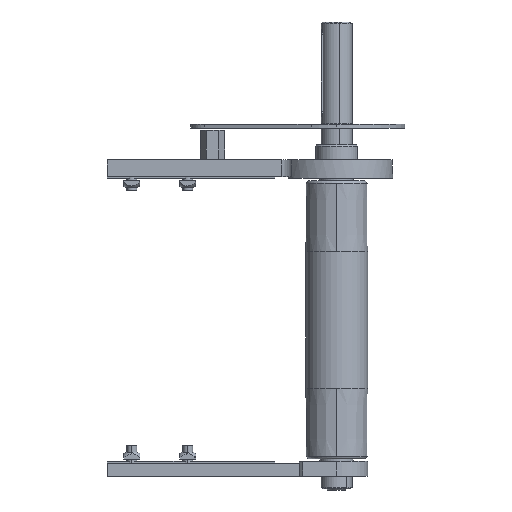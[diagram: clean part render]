
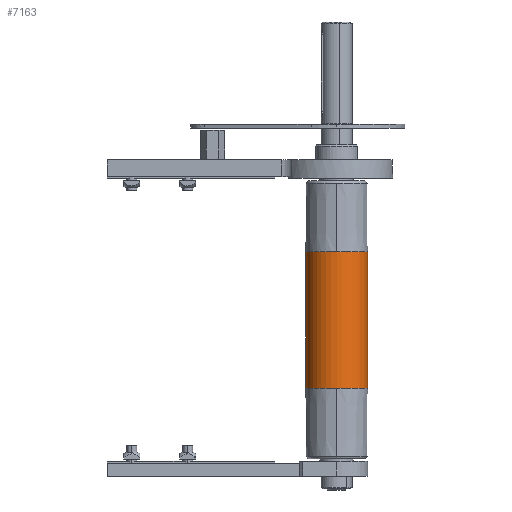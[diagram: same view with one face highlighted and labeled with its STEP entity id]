
A CAD part, front view. The second image highlights one B-rep face of the part: STEP entity #7163.
In plain terms, the highlighted cylindrical face has radius 25 mm (diameter 50 mm), a partial arc.
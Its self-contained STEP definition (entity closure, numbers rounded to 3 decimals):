
#2712 = CARTESIAN_POINT ( 'NONE',  ( -55., 25., 0. ) ) ;
#2952 = EDGE_LOOP ( 'NONE', ( #3448, #3449, #3450, #3451, #3452, #3453 ) ) ;
#3448 = ORIENTED_EDGE ( 'NONE', *, *, #15447, .T. ) ;
#3449 = ORIENTED_EDGE ( 'NONE', *, *, #15479, .T. ) ;
#3450 = ORIENTED_EDGE ( 'NONE', *, *, #15480, .T. ) ;
#3451 = ORIENTED_EDGE ( 'NONE', *, *, #15481, .F. ) ;
#3452 = ORIENTED_EDGE ( 'NONE', *, *, #15453, .F. ) ;
#3453 = ORIENTED_EDGE ( 'NONE', *, *, #15482, .F. ) ;
#3510 = VERTEX_POINT ( 'NONE', #2712 ) ;
#4352 = AXIS2_PLACEMENT_3D ( 'NONE', #5296, #5294, #5292 ) ;
#4424 = AXIS2_PLACEMENT_3D ( 'NONE', #10412, #10413, #10414 ) ;
#4428 = AXIS2_PLACEMENT_3D ( 'NONE', #10429, #10430, #10431 ) ;
#4441 = AXIS2_PLACEMENT_3D ( 'NONE', #10495, #10496, #10497 ) ;
#4442 = AXIS2_PLACEMENT_3D ( 'NONE', #10498, #10499, #10500 ) ;
#5292 = DIRECTION ( 'NONE',  ( 0., 0., 1. ) ) ;
#5294 = DIRECTION ( 'NONE',  ( -1., 0., 0. ) ) ;
#5296 = CARTESIAN_POINT ( 'NONE',  ( 110., 0., 0. ) ) ;
#5842 = FACE_OUTER_BOUND ( 'NONE', #2952, .T. ) ;
#5850 = CYLINDRICAL_SURFACE ( 'NONE', #4352, 25. ) ;
#6039 = CIRCLE ( 'NONE', #4424, 25. ) ;
#6047 = CIRCLE ( 'NONE', #4428, 25. ) ;
#6084 = CIRCLE ( 'NONE', #4441, 25. ) ;
#6087 = LINE ( 'NONE', #10492, #6089 ) ;
#6088 = CIRCLE ( 'NONE', #4442, 25. ) ;
#6089 = VECTOR ( 'NONE', #10487, 1000. ) ;
#6090 = LINE ( 'NONE', #10493, #6092 ) ;
#6092 = VECTOR ( 'NONE', #10494, 1000. ) ;
#7163 = ADVANCED_FACE ( 'NONE', ( #5842 ), #5850, .T. ) ;
#7699 = VERTEX_POINT ( 'NONE', #9426 ) ;
#7710 = VERTEX_POINT ( 'NONE', #9437 ) ;
#7727 = VERTEX_POINT ( 'NONE', #9454 ) ;
#7790 = VERTEX_POINT ( 'NONE', #9517 ) ;
#7794 = VERTEX_POINT ( 'NONE', #9521 ) ;
#9426 = CARTESIAN_POINT ( 'NONE',  ( -55., 0., 25. ) ) ;
#9437 = CARTESIAN_POINT ( 'NONE',  ( 55., 0., 25. ) ) ;
#9454 = CARTESIAN_POINT ( 'NONE',  ( 55., 25., 0. ) ) ;
#9517 = CARTESIAN_POINT ( 'NONE',  ( -55., 0., -25. ) ) ;
#9521 = CARTESIAN_POINT ( 'NONE',  ( 55., 0., -25. ) ) ;
#10412 = CARTESIAN_POINT ( 'NONE',  ( 55., 0., 0. ) ) ;
#10413 = DIRECTION ( 'NONE',  ( -1., 0., 0. ) ) ;
#10414 = DIRECTION ( 'NONE',  ( 0., -1., 0. ) ) ;
#10429 = CARTESIAN_POINT ( 'NONE',  ( -55., 0., 0. ) ) ;
#10430 = DIRECTION ( 'NONE',  ( -1., 0., 0. ) ) ;
#10431 = DIRECTION ( 'NONE',  ( 0., -1., 0. ) ) ;
#10487 = DIRECTION ( 'NONE',  ( -1., 0., 0. ) ) ;
#10492 = CARTESIAN_POINT ( 'NONE',  ( 110., 0., -25. ) ) ;
#10493 = CARTESIAN_POINT ( 'NONE',  ( 110., 0., 25. ) ) ;
#10494 = DIRECTION ( 'NONE',  ( -1., 0., 0. ) ) ;
#10495 = CARTESIAN_POINT ( 'NONE',  ( 55., 0., 0. ) ) ;
#10496 = DIRECTION ( 'NONE',  ( -1., 0., 0. ) ) ;
#10497 = DIRECTION ( 'NONE',  ( 0., -1., 0. ) ) ;
#10498 = CARTESIAN_POINT ( 'NONE',  ( -55., 0., 0. ) ) ;
#10499 = DIRECTION ( 'NONE',  ( -1., 0., 0. ) ) ;
#10500 = DIRECTION ( 'NONE',  ( 0., -1., 0. ) ) ;
#15447 = EDGE_CURVE ( 'NONE', #7710, #7727, #6039, .T. ) ;
#15453 = EDGE_CURVE ( 'NONE', #7699, #3510, #6047, .T. ) ;
#15479 = EDGE_CURVE ( 'NONE', #7727, #7794, #6084, .T. ) ;
#15480 = EDGE_CURVE ( 'NONE', #7794, #7790, #6087, .T. ) ;
#15481 = EDGE_CURVE ( 'NONE', #3510, #7790, #6088, .T. ) ;
#15482 = EDGE_CURVE ( 'NONE', #7710, #7699, #6090, .T. ) ;
